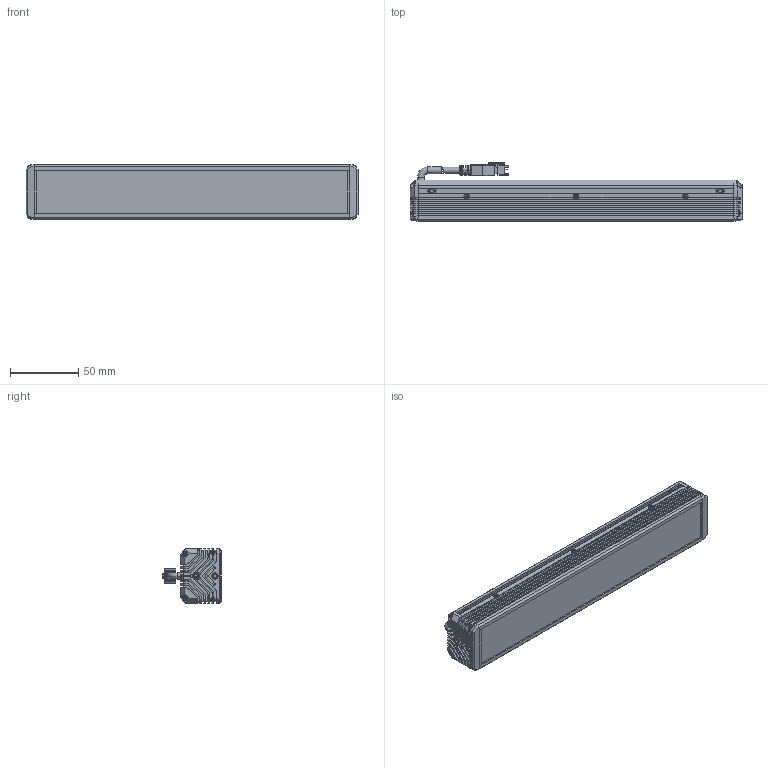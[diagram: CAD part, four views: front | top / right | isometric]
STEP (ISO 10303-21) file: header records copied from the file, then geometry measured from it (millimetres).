
FILE_DESCRIPTION((''),'2;1');
FILE_NAME('MV-LLDS-H-250-40-W-PL_ASM','2024-04-08T13:45:10',('huguozhe'),(''),'CREO PARAMETRIC BY PTC INC, 2020044','CREO PARAMETRIC BY PTC INC, 2020044','');
FILE_SCHEMA(('AUTOMOTIVE_DESIGN { 1 0 10303 214 1 1 1 1 }'));
Length unit declared in the file: millimetre
Products named in the file (15): DE-15-001180; DE-15-001179_ASM; DE-15-000488; DE-15-000487_ASM; DE-12-002350; TIP-M3X4-4_5X5-SO-ET-07061033; DE-12-002350_ASM; DE-12-001595; SC-KM2X6-BNI-GB819; XIANLAN_HEAD; CABLE_HEAD; CABLE_HEAD_ASM_ASM; 190100852; SC-PM2X6B-JMP; MV-LLDS-H-250-40-W-PL_ASM
Assembly tree (32 placements, depth 3):
  MV-LLDS-H-250-40-W-PL_ASM
    DE-15-001179_ASM
      DE-15-001180
    DE-15-000487_ASM
      DE-15-000488
    DE-12-002350_ASM  x2
      DE-12-002350
      TIP-M3X4-4_5X5-SO-ET-07061033
    DE-12-001595
    SC-KM2X6-BNI-GB819  x3
    CABLE_HEAD_ASM_ASM
      XIANLAN_HEAD
      CABLE_HEAD
    190100852  x8
    SC-PM2X6B-JMP  x8
Bounding box: 243 x 42.65 x 40 mm (x, y, z)
Volume: 226403.6 mm3; surface area: 122002.7 mm2
Topology: 30 solids, 64 shells, 2762 faces, 7156 edges, 4513 vertices
Faces by surface type: plane 1334, cylinder 573, bspline 472, cone 326, torus 48, sphere 8, extrusion 1
Entity records: 48401 total; most frequent: CARTESIAN_POINT 11283, ORIENTED_EDGE 6230, DIRECTION 5991, EDGE_CURVE 3145, VECTOR 2023, LINE 2022, VERTEX_POINT 2017, AXIS2_PLACEMENT_3D 1984
